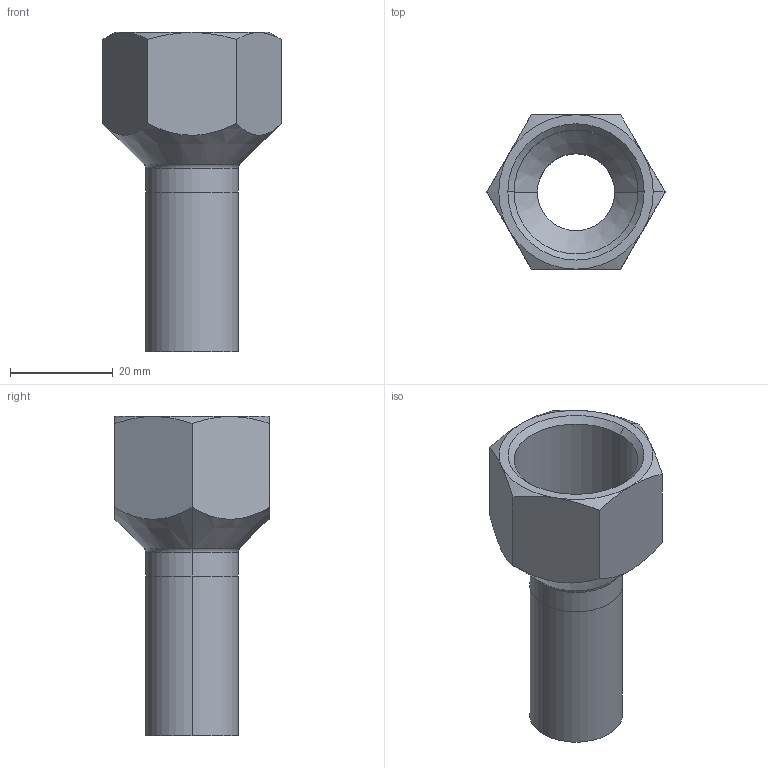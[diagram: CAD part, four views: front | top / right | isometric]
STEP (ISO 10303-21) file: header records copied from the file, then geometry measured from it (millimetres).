
FILE_DESCRIPTION (( 'STEP AP203' ), '1' );
FILE_NAME ('GDA6384.STEP', '2019-07-03T03:08:19', ( '' ), ( '' ), 'SwSTEP 2.0', 'SolidWorks 2015', '' );
FILE_SCHEMA (( 'CONFIG_CONTROL_DESIGN' ));
Length unit declared in the file: millimetre
Products named in the file (3): GDA6384; OD18｡ﾁ0.75; 18眻奪
Assembly tree (2 placements, depth 2):
  GDA6384
    18眻奪
    OD18｡ﾁ0.75
Bounding box: 34.64 x 30 x 62 mm (x, y, z)
Volume: 9973.8 mm3; surface area: 8943 mm2
Topology: 2 solids, 2 shells, 35 faces, 74 edges, 43 vertices
Faces by surface type: cone 13, cylinder 10, plane 10, torus 2
Entity records: 1360 total; most frequent: CARTESIAN_POINT 311, DIRECTION 169, ORIENTED_EDGE 148, EDGE_CURVE 74, AXIS2_PLACEMENT_3D 73, VERTEX_POINT 43, EDGE_LOOP 39, FACE_OUTER_BOUND 35
